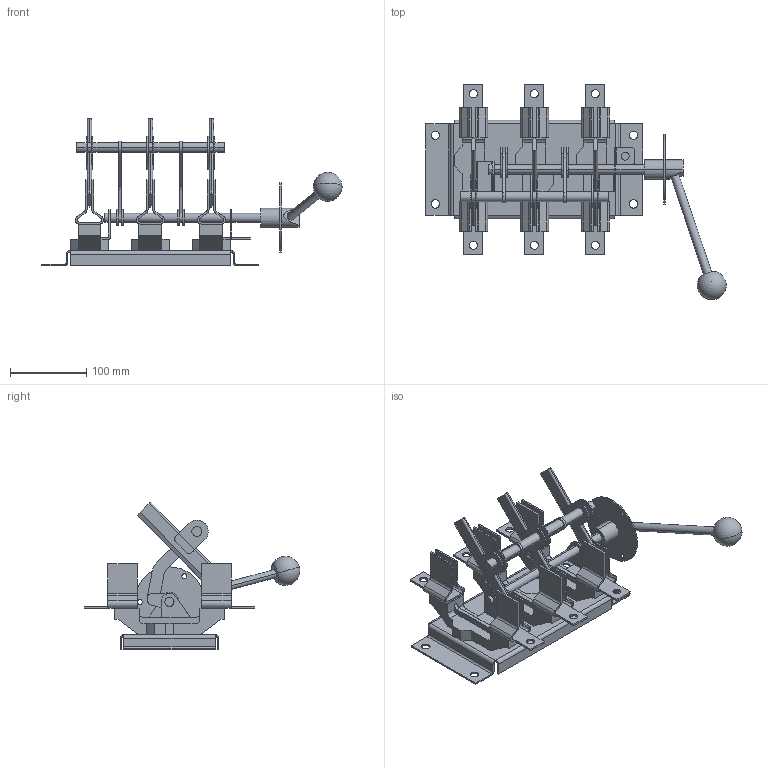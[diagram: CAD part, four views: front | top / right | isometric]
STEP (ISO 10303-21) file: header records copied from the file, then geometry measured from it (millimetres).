
FILE_DESCRIPTION (( 'STEP AP214' ), '1' );
FILE_NAME ('Ðàçúåäèíèòåëü ÐÁ-4Ï-250À-Ó3-ÊÝÀÇ.STEP', '2023-05-01T20:58:37', ( '' ), ( '' ), 'SwSTEP 2.0', 'SolidWorks 2018', '' );
FILE_SCHEMA (( 'AUTOMOTIVE_DESIGN' ));
Length unit declared in the file: millimetre
Products named in the file (1): Ðàçúåäèíèòåëü ÐÁ-4Ï-250À-Ó3-ÊÝÀÇ
Bounding box: 394.16 x 283.08 x 194.02 mm (x, y, z)
Volume: 691818.3 mm3; surface area: 307725.2 mm2
Topology: 6 solids, 6 shells, 539 faces, 1522 edges, 1000 vertices
Faces by surface type: plane 321, cylinder 214, bspline 2, sphere 2
Entity records: 23540 total; most frequent: CARTESIAN_POINT 3107, ORIENTED_EDGE 3034, DIRECTION 3019, EDGE_CURVE 1517, LINE 1081, VECTOR 1081, VERTEX_POINT 997, AXIS2_PLACEMENT_3D 969
